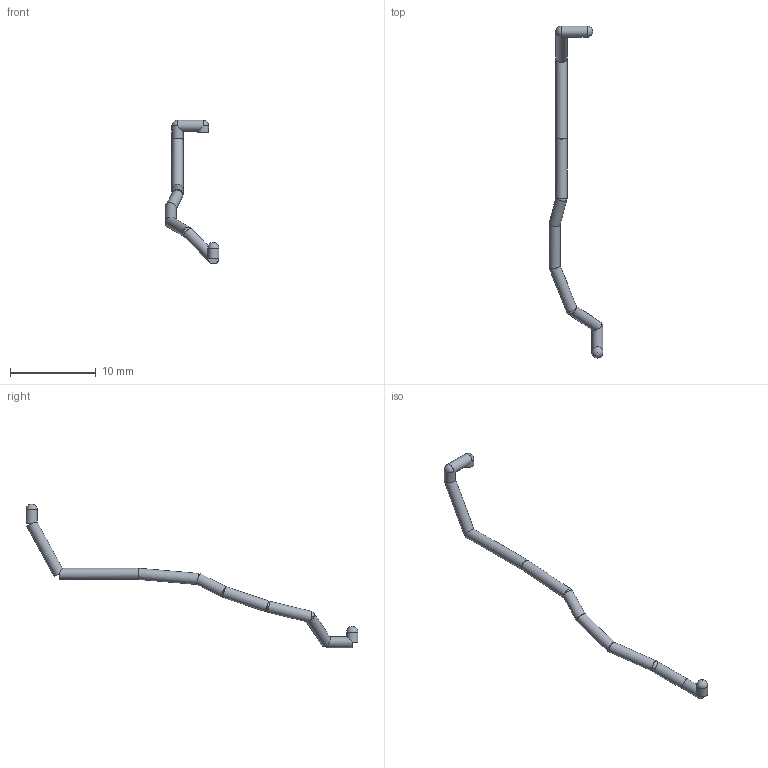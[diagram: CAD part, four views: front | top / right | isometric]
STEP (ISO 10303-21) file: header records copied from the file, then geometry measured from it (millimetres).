
FILE_DESCRIPTION(('Open CASCADE Model'),'2;1');
FILE_NAME('Open CASCADE Shape Model','2026-10-17T17:22:15',('Author'),( 'Open CASCADE'),'Open CASCADE STEP processor 7.9','Open CASCADE 7.9' ,'Unknown');
FILE_SCHEMA(('AUTOMOTIVE_DESIGN { 1 0 10303 214 1 1 1 1 }'));
Length unit declared in the file: millimetre
Products named in the file (1): Open CASCADE STEP translator 7.9 30
Bounding box: 6.3 x 38.8 x 16.8 mm (x, y, z)
Volume: 67.9 mm3; surface area: 217 mm2
Topology: 1 solids, 1 shells, 43 faces, 105 edges, 60 vertices
Faces by surface type: plane 22, cylinder 12, sphere 9
Full cylindrical faces by diameter (mm): 1.3 x12
Entity records: 3145 total; most frequent: CARTESIAN_POINT 1175, DIRECTION 365, ORIENTED_EDGE 202, PCURVE 202, DEFINITIONAL_REPRESENTATION 202, AXIS2_PLACEMENT_3D 115, LINE 113, VECTOR 113
